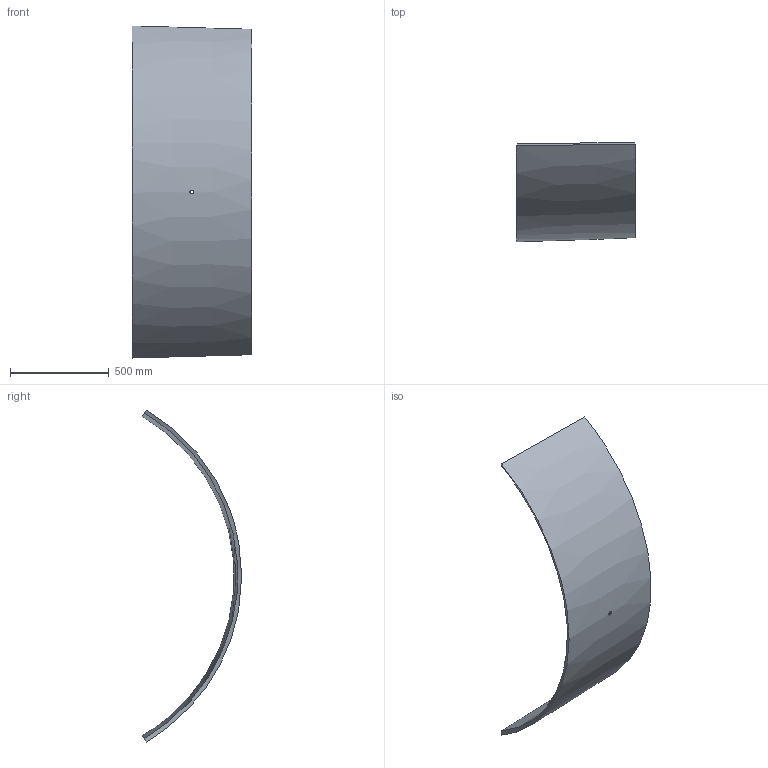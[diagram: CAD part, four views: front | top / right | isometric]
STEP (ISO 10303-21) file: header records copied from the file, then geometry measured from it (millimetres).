
FILE_DESCRIPTION (( 'STEP AP214' ), '1' );
FILE_NAME ('P15.STEP', '2025-01-09T19:43:25', ( '' ), ( '' ), 'SwSTEP 2.0', 'SolidWorks 2024', '' );
FILE_SCHEMA (( 'AUTOMOTIVE_DESIGN' ));
Length unit declared in the file: inch
Products named in the file (1): P15
Bounding box: 606.42 x 503.31 x 1681.14 mm (x, y, z)
Volume: 22942318.7 mm3; surface area: 2489352.6 mm2
Topology: 1 solids, 1 shells, 8 faces, 17 edges, 11 vertices
Faces by surface type: bspline 7, cylinder 1
Full cylindrical faces by diameter (mm): 19.431 x1
Entity records: 2575 total; most frequent: CARTESIAN_POINT 2427, ORIENTED_EDGE 30, B_SPLINE_CURVE_WITH_KNOTS 15, EDGE_CURVE 15, EDGE_LOOP 12, VERTEX_POINT 11, FACE_OUTER_BOUND 10, ADVANCED_FACE 8
